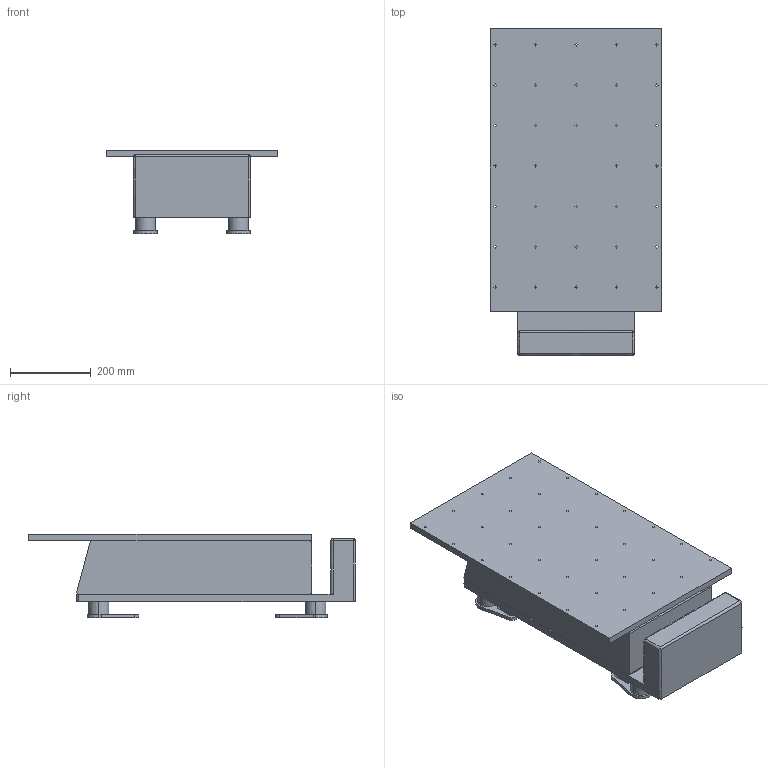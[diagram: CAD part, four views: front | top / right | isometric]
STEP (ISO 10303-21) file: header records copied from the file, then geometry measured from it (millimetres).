
FILE_DESCRIPTION( ('This file contains a STEP AP42 implementation' ,'as created by ZW3D STEP Interface translator.') ,'2;1' );
FILE_NAME( 'HD-ZD700A-2024.stp' ,'24 418.131131', (''), ('ZWCAD Software Co.'), 'Version 1.0', 'ZW3D to STEP translator', '' );
FILE_SCHEMA( ('CONFIG_CONTROL_DESIGN') );
Length unit declared in the file: millimetre
Products named in the file (2): 0; HD-ZD700A-2024
Bounding box: 425 x 808.7 x 206.77 mm (x, y, z)
Volume: 32603551.8 mm3; surface area: 1474551.8 mm2
Topology: 10 solids, 13 shells, 234 faces, 570 edges, 371 vertices
Faces by surface type: bspline 234
Entity records: 7946 total; most frequent: CARTESIAN_POINT 4357, ORIENTED_EDGE 1128, EDGE_CURVE 564, VERTEX_POINT 371, EDGE_LOOP 333, B_SPLINE_CURVE_WITH_KNOTS 258, FACE_OUTER_BOUND 234, ADVANCED_FACE 234
